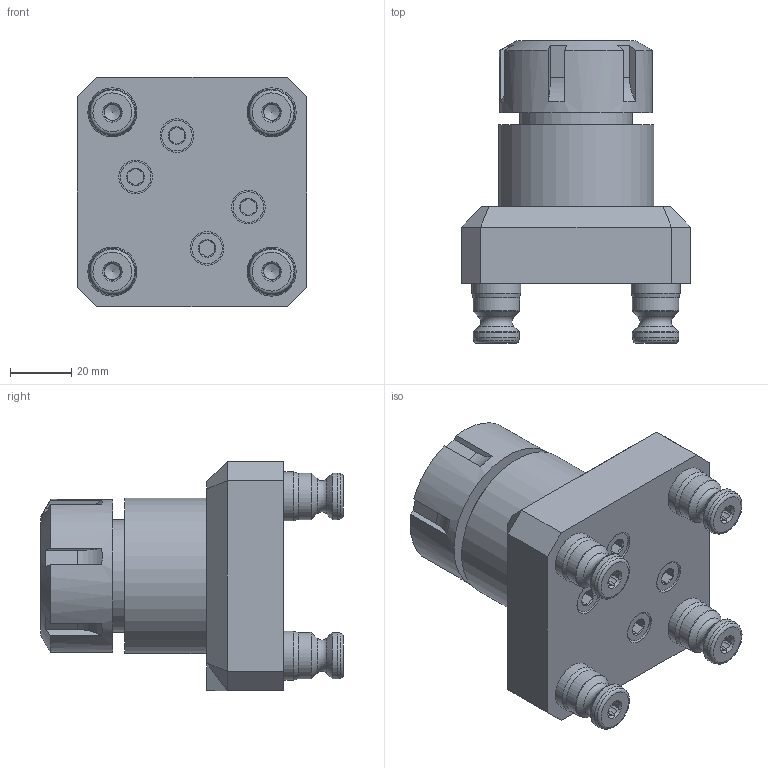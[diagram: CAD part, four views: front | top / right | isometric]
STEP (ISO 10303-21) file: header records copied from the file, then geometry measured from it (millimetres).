
FILE_DESCRIPTION (( 'STEP AP214' ), '1' );
FILE_NAME ('D_A52-CERX-32_WEBSITE.STEP', '2025-08-13T04:45:20', ( '' ), ( '' ), 'SwSTEP 2.0', 'SolidWorks 2025', '' );
FILE_SCHEMA (( 'AUTOMOTIVE_DESIGN' ));
Length unit declared in the file: inch
Products named in the file (10): PS16F-1_WEBSITE_HARD TURN; A52-CERX-1_WEBSITE; D_CERX32-1_WEBSITE; PS16F_WEBSITE; D_A52-CERX-32_WEBSITE; M8X20.FPSS_WEBSITE_93245A145; D_CERX-32_WEBSITE; D_CERX32-2_WEBSITE; D_91290A330_BLACK-OXIDE CLASS 12.9 SOCKET HEAD CAP SCREW_WEBSITE_91290A330; D_CERX32-3_WEBSITE
Assembly tree (15 placements, depth 3):
  D_A52-CERX-32_WEBSITE
    A52-CERX-1_WEBSITE
    D_CERX-32_WEBSITE
      D_CERX32-1_WEBSITE
      D_CERX32-3_WEBSITE
      D_CERX32-2_WEBSITE
    D_91290A330_BLACK-OXIDE CLASS 12.9 SOCKET HEAD CAP SCREW_WEBSITE_91290A330  x4
    PS16F_WEBSITE  x4
      PS16F-1_WEBSITE_HARD TURN
      M8X20.FPSS_WEBSITE_93245A145
Bounding box: 75 x 98.76 x 75 mm (x, y, z)
Volume: 222136.9 mm3; surface area: 71590.6 mm2
Topology: 16 solids, 16 shells, 537 faces, 1303 edges, 829 vertices
Faces by surface type: plane 278, cylinder 132, cone 99, torus 28
Full cylindrical faces by diameter (mm): 3.023 x2, 3.3 x2, 4 x2, 5 x4, 5.25 x4, 6 x4, 6.756 x4, 6.8 x8, 8 x8, 10 x4, 11 x4, 11.991 x4, 12.017 x4, 15.202 x8, 15.997 x4, 21 x1, 22 x1, 27.1 x1, 29 x1, 33.81 x1, 36.83 x1, 40 x1, 40.64 x1, 42 x1, 50 x1, 50.8 x1, 50.838 x1
Entity records: 10433 total; most frequent: CARTESIAN_POINT 2149, DIRECTION 1595, ORIENTED_EDGE 1482, EDGE_CURVE 741, AXIS2_PLACEMENT_3D 642, VERTEX_POINT 522, EDGE_LOOP 447, FACE_OUTER_BOUND 388
